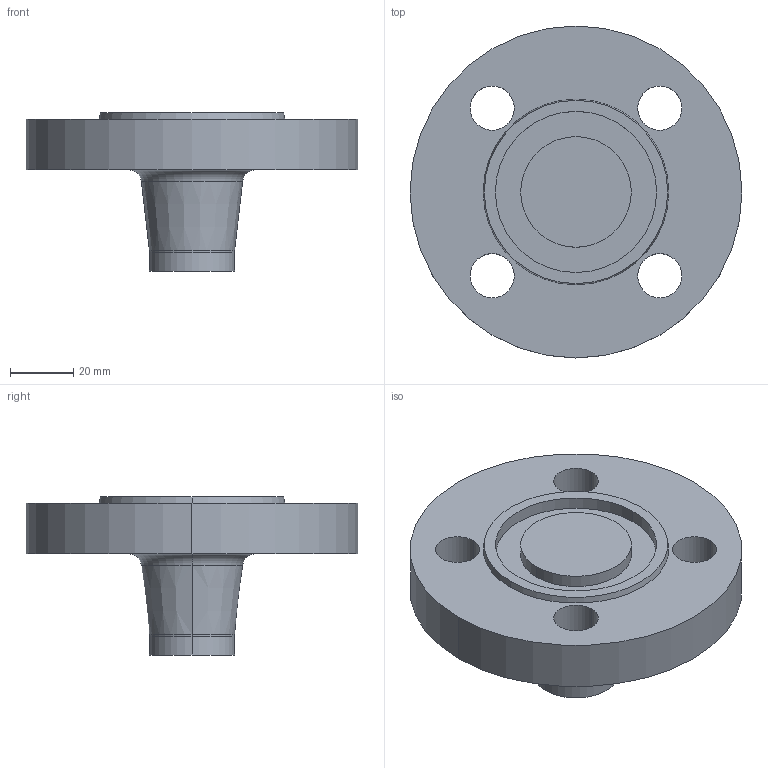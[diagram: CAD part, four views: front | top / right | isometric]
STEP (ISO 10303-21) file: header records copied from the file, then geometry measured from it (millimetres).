
FILE_DESCRIPTION (( 'STEP AP214' ), '1' );
FILE_NAME ('PN40 DN20 Type 21(ii) - Type D Face.STEP', '2018-12-29T16:12:08', ( '' ), ( '' ), 'SwSTEP 2.0', 'SolidWorks 2019', '' );
FILE_SCHEMA (( 'AUTOMOTIVE_DESIGN' ));
Length unit declared in the file: millimetre
Products named in the file (1): PN40 DN20 Type 21(ii) - Type D Face
Bounding box: 105 x 105 x 50 mm (x, y, z)
Volume: 151678.3 mm3; surface area: 28120.8 mm2
Topology: 1 solids, 1 shells, 30 faces, 66 edges, 42 vertices
Faces by surface type: cylinder 16, plane 6, torus 4, cone 4
Entity records: 898 total; most frequent: DIRECTION 174, CARTESIAN_POINT 139, ORIENTED_EDGE 132, AXIS2_PLACEMENT_3D 77, EDGE_CURVE 66, CIRCLE 46, EDGE_LOOP 42, VERTEX_POINT 42
